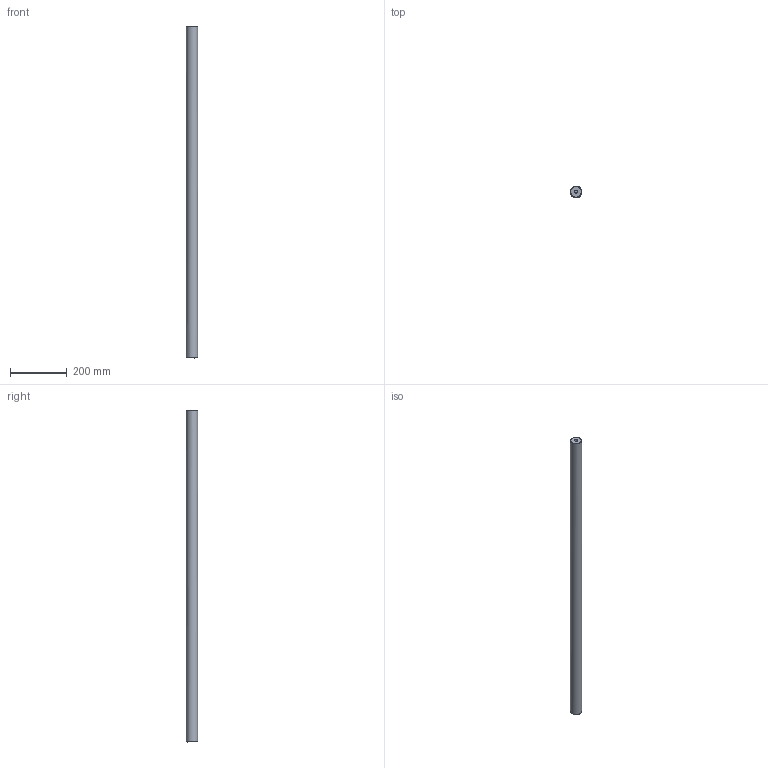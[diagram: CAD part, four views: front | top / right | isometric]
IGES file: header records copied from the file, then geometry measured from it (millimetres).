
Start section: File produced by SOLID-CONCEP (Trim Surfaces - Entity 144)
Global section: file name: 60.igs; native system: SOLID-CONCEPT V.5.xx; preprocessor: SOLID-CONCEPT-IGES-OUT v2.00; date: 100220.133016; units: millimetre
Bounding box: 39.99 x 39.99 x 1174 mm (x, y, z)
Surface area: 151777.6 mm2 (no closed solid volume)
Topology: 0 solids, 0 shells, 9 faces, 48 edges, 38 vertices
Faces by surface type: revolution 5, bspline 4
